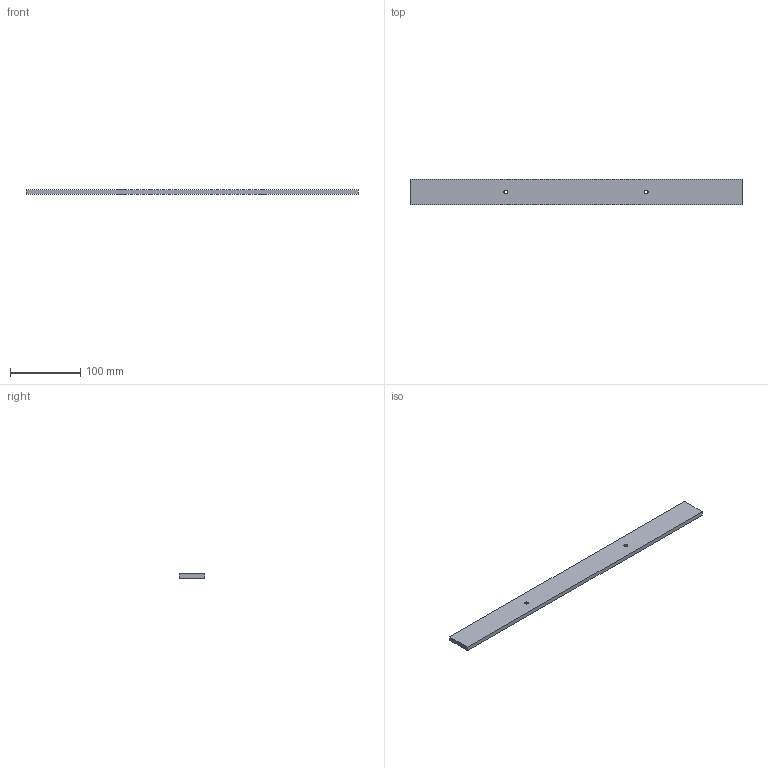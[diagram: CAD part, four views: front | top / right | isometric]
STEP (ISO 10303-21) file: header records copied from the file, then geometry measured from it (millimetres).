
FILE_DESCRIPTION (( 'STEP AP203' ), '1' );
FILE_NAME ('Planche_Derrière.STEP', '2026-06-24T07:29:48', ( '' ), ( '' ), 'SwSTEP 2.0', 'SolidWorks 2024', '' );
FILE_SCHEMA (( 'CONFIG_CONTROL_DESIGN' ));
Length unit declared in the file: millimetre
Products named in the file (1): Planche_Derrière
Bounding box: 472 x 36 x 6 mm (x, y, z)
Volume: 101636.8 mm3; surface area: 40163.6 mm2
Topology: 1 solids, 1 shells, 10 faces, 22 edges, 14 vertices
Faces by surface type: plane 6, cylinder 2, cone 2
Full cylindrical faces by diameter (mm): 5 x2
Entity records: 339 total; most frequent: DIRECTION 46, CARTESIAN_POINT 43, ORIENTED_EDGE 36, EDGE_LOOP 18, EDGE_CURVE 18, AXIS2_PLACEMENT_3D 17, VERTEX_POINT 14, VECTOR 12
